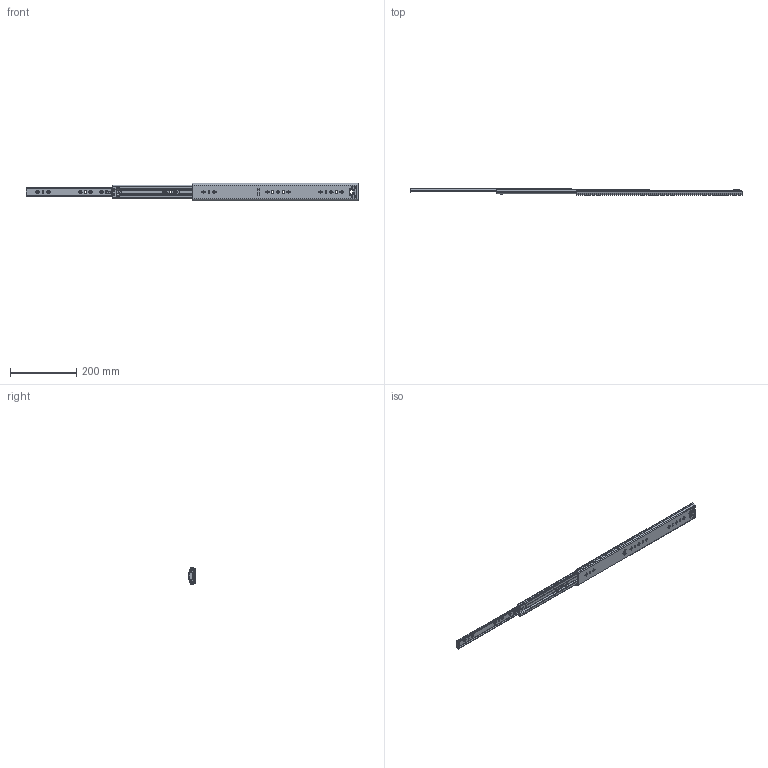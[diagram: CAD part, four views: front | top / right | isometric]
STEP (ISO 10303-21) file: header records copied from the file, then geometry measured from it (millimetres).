
FILE_DESCRIPTION((''),'2;1');
FILE_NAME('1053-02-20_ASM','2022-08-15T',('jishu015'),(''),'PRO/ENGINEER BY PARAMETRIC TECHNOLOGY CORPORATION, 2010280','PRO/ENGINEER BY PARAMETRIC TECHNOLOGY CORPORATION, 2010280','');
FILE_SCHEMA(('CONFIG_CONTROL_DESIGN'));
Length unit declared in the file: millimetre
Products named in the file (16): 1053-02-20WAIKE; 1053WEIJIAO______________; 53-WAIKEJIAO-20; 1053-02-20WAIKE_ASM; 1053ZHUTIAO-175______________; 53-5-6GANZHU______________; 1053ZHUTIAO-175MM_______________ASM; 1053-02-18ZHONGGUI; 53ZHIDIJIAO______________; 1053-02-18ZHONGGUI_ASM; 1053XIAOZHUJIA-14GE__; 1053XIAOZHUJIA-12GE__ASM; 1053-02-18NEIGUI______________; 53BACHA_____________; 1053-02-18NEIGUI_______________ASM; 1053-02-20_ASM
Assembly tree (59 placements, depth 3):
  1053-02-20_ASM
    1053-02-20WAIKE_ASM
      1053-02-20WAIKE
      1053WEIJIAO______________
      53-WAIKEJIAO-20
    1053ZHUTIAO-175MM_______________ASM  x2
      1053ZHUTIAO-175______________
      53-5-6GANZHU______________
    1053-02-18ZHONGGUI_ASM
      1053-02-18ZHONGGUI
      53ZHIDIJIAO______________
    1053XIAOZHUJIA-12GE__ASM
      1053XIAOZHUJIA-14GE__
      53-5-6GANZHU______________  x36
    1053-02-18NEIGUI_______________ASM
      1053-02-18NEIGUI______________
      53BACHA_____________
Bounding box: 1000 x 18.7 x 53 mm (x, y, z)
Volume: 189332.2 mm3; surface area: 218068.9 mm2
Topology: 62 solids, 62 shells, 1808 faces, 5173 edges, 3235 vertices
Faces by surface type: cylinder 778, plane 722, sphere 122, cone 76, bspline 76, torus 34
Entity records: 59152 total; most frequent: CARTESIAN_POINT 14849, ORIENTED_EDGE 9370, DIRECTION 9192, EDGE_CURVE 4685, AXIS2_PLACEMENT_3D 3232, VERTEX_POINT 3021, VECTOR 2728, LINE 2728
